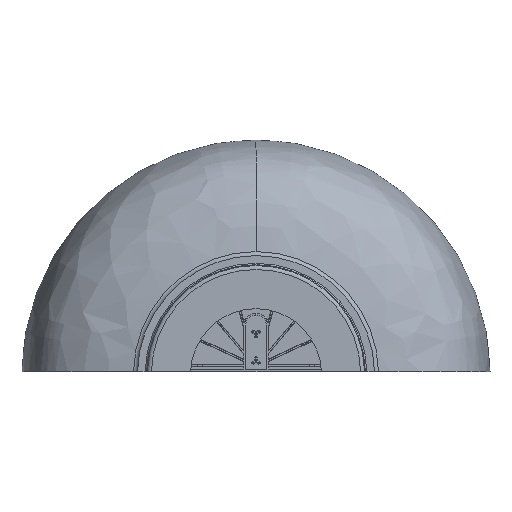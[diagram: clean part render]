
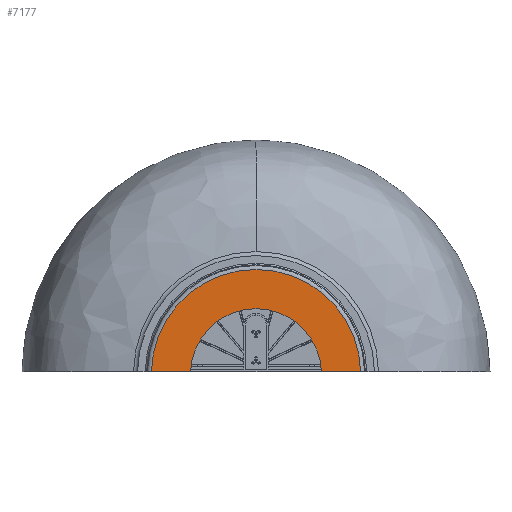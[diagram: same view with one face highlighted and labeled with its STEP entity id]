
A CAD part, front view. The second image highlights one B-rep face of the part: STEP entity #7177.
In plain terms, the highlighted planar face has unit normal (0, -1, 0).
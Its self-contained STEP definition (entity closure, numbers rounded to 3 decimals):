
#149 = PLANE ( 'NONE',  #6333 ) ;
#240 = EDGE_CURVE ( 'NONE', #481, #4525, #2071, .T. ) ;
#481 = VERTEX_POINT ( 'NONE', #685 ) ;
#685 = CARTESIAN_POINT ( 'NONE',  ( 67.963, -7.5, 0. ) ) ;
#1044 = CIRCLE ( 'NONE', #6852, 42.5 ) ;
#1047 = LINE ( 'NONE', #4236, #7472 ) ;
#1598 = EDGE_LOOP ( 'NONE', ( #7233, #1631, #3819, #6221 ) ) ;
#1627 = CARTESIAN_POINT ( 'NONE',  ( 0., -7.5, 0. ) ) ;
#1631 = ORIENTED_EDGE ( 'NONE', *, *, #240, .T. ) ;
#1650 = DIRECTION ( 'NONE',  ( 1., 0., 0. ) ) ;
#1659 = DIRECTION ( 'NONE',  ( 0., -1., 0. ) ) ;
#2071 = CIRCLE ( 'NONE', #3373, 67.979 ) ;
#2529 = CARTESIAN_POINT ( 'NONE',  ( 0., -7.5, -1.5 ) ) ;
#3285 = CARTESIAN_POINT ( 'NONE',  ( 0., -7.5, 68.211 ) ) ;
#3373 = AXIS2_PLACEMENT_3D ( 'NONE', #2529, #1659, #9477 ) ;
#3433 = VERTEX_POINT ( 'NONE', #3538 ) ;
#3538 = CARTESIAN_POINT ( 'NONE',  ( 42.474, -7.5, 0. ) ) ;
#3819 = ORIENTED_EDGE ( 'NONE', *, *, #9524, .F. ) ;
#3832 = DIRECTION ( 'NONE',  ( 0., -1., 0. ) ) ;
#4099 = VECTOR ( 'NONE', #8585, 1000. ) ;
#4236 = CARTESIAN_POINT ( 'NONE',  ( 0., -7.5, 0. ) ) ;
#4525 = VERTEX_POINT ( 'NONE', #7263 ) ;
#4909 = CARTESIAN_POINT ( 'NONE',  ( -42.474, -7.5, 0. ) ) ;
#4926 = LINE ( 'NONE', #1627, #4099 ) ;
#6221 = ORIENTED_EDGE ( 'NONE', *, *, #8160, .F. ) ;
#6223 = CARTESIAN_POINT ( 'NONE',  ( 0., -7.5, -1.5 ) ) ;
#6281 = FACE_OUTER_BOUND ( 'NONE', #1598, .T. ) ;
#6330 = DIRECTION ( 'NONE',  ( 0., -1., 0. ) ) ;
#6333 = AXIS2_PLACEMENT_3D ( 'NONE', #3285, #6330, #6383 ) ;
#6383 = DIRECTION ( 'NONE',  ( 1., 0., 0. ) ) ;
#6852 = AXIS2_PLACEMENT_3D ( 'NONE', #6223, #3832, #1650 ) ;
#7177 = ADVANCED_FACE ( 'NONE', ( #6281 ), #149, .T. ) ;
#7233 = ORIENTED_EDGE ( 'NONE', *, *, #8977, .F. ) ;
#7263 = CARTESIAN_POINT ( 'NONE',  ( -67.963, -7.5, 0. ) ) ;
#7472 = VECTOR ( 'NONE', #8755, 1000. ) ;
#7826 = VERTEX_POINT ( 'NONE', #4909 ) ;
#8160 = EDGE_CURVE ( 'NONE', #3433, #7826, #1044, .T. ) ;
#8585 = DIRECTION ( 'NONE',  ( -1., 0., 0. ) ) ;
#8755 = DIRECTION ( 'NONE',  ( -1., 0., 0. ) ) ;
#8977 = EDGE_CURVE ( 'NONE', #481, #3433, #4926, .T. ) ;
#9477 = DIRECTION ( 'NONE',  ( 1., 0., 0. ) ) ;
#9524 = EDGE_CURVE ( 'NONE', #7826, #4525, #1047, .T. ) ;
